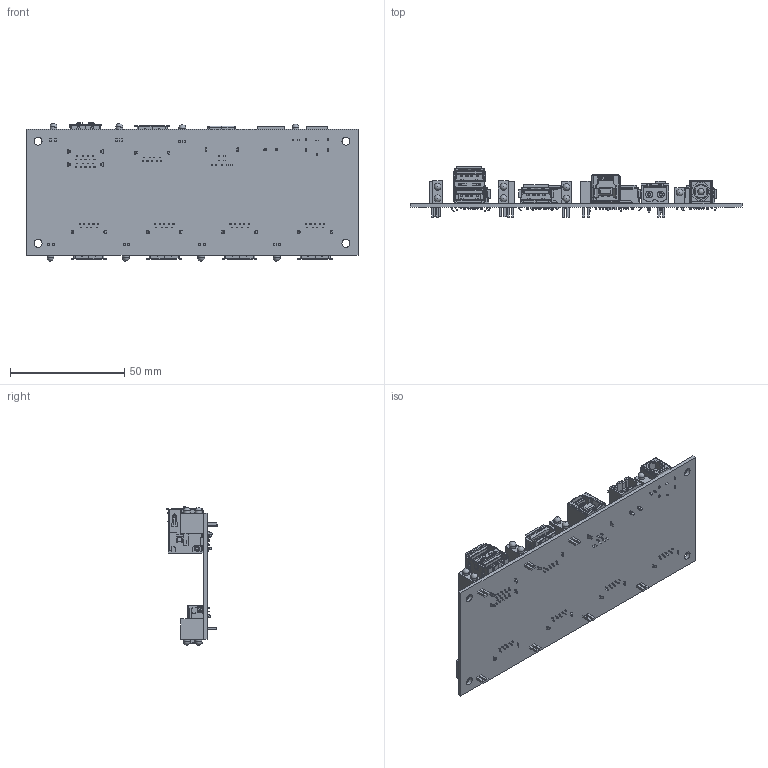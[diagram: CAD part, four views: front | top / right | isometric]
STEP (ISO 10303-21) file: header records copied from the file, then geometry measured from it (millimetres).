
FILE_DESCRIPTION(/* description */ (''),/* implementation_level */ '2;1');
FILE_NAME(/* name */ 'C:/Users/Leo/Desktop/CG-43AB1_V2.0-PROG Model3D LPV1.step',/* time_stamp */ '2021-06-02T08:38:22-04:00',/* author */ (''),/* organization */ (''),/* preprocessor_version */ 'ST-DEVELOPER v18.1',/* originating_system */ 'Autodesk Translation Framework v10.9.0.1377',/* authorisation */ '');
FILE_SCHEMA (('AUTOMOTIVE_DESIGN { 1 0 10303 214 3 1 1 }'));
Products named in the file (1): FusionComponent
Bounding box: 145 x 22.07 x 60.45 mm (x, y, z)
Volume: 24844.1 mm3; surface area: 45230.2 mm2
Topology: 9 solids, 117 shells, 10097 faces, 29175 edges, 18805 vertices
Faces by surface type: plane 7842, cylinder 2120, bspline 61, cone 39, sphere 22, torus 13
Full cylindrical faces by diameter (mm): 1.2 x2, 2 x1, 2.4 x1, 2.8 x2, 2.85 x2, 2.89 x1, 3 x14, 3.5 x4
Entity records: 331005 total; most frequent: CARTESIAN_POINT 60886, ORIENTED_EDGE 58310, DIRECTION 53580, EDGE_CURVE 29155, LINE 24416, VECTOR 24416, VERTEX_POINT 18805, AXIS2_PLACEMENT_3D 14582
